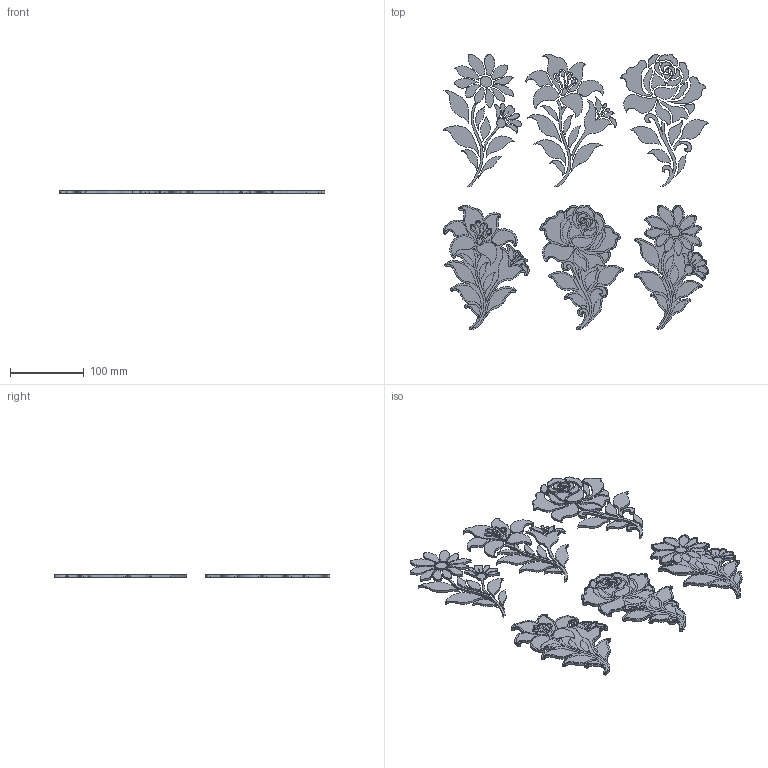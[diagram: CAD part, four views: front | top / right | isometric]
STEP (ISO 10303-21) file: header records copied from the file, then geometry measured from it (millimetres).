
FILE_DESCRIPTION(('STEP AP214'),'1');
FILE_NAME('Drawing2.stp','2026-10-14T06:18:35',(' '),(' '),'Spatial InterOp 3D',' ',' ');
FILE_SCHEMA(('AUTOMOTIVE_DESIGN { 1 0 10303 214 1 1 1 1 }'));
Length unit declared in the file: metre
Products named in the file (77): 1791968457; 1791968458; 1791968459; 1791968460; 1791968461; 1791968462; 1791968463; 1791968464; 1791968465; 1791968466; 1791968467; 1791968468; 1791968469; 1791968470; 1791968471; 1791968472; 1791968473; 1791968474; 1791968475; 1791968476; 1791968477; 1791968478; 1791968479; 1791968480; 1791968481; 1791968482; 1791968483; 1791968484; 1791968485; 1791968486; 1791968487; 1791968488; 1791968489; 1791968490; 1791968491; 1791968492; 1791968493; 1791968494; 1791968495; 1791968496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
Bounding box: 359.38 x 372.86 x 3 mm (x, y, z)
Volume: 158472.3 mm3; surface area: 132116.1 mm2
Topology: 76 solids, 76 shells, 661 faces, 1691 edges, 1255 vertices
Faces by surface type: extrusion 436, plane 225
Entity records: 46258 total; most frequent: CARTESIAN_POINT 24657, ORIENTED_EDGE 2588, B_SPLINE_CURVE_WITH_KNOTS 1555, DIRECTION 1462, EDGE_CURVE 1294, STYLED_ITEM 1029, PRESENTATION_STYLE_ASSIGNMENT 1029, COLOUR_RGB 1029
